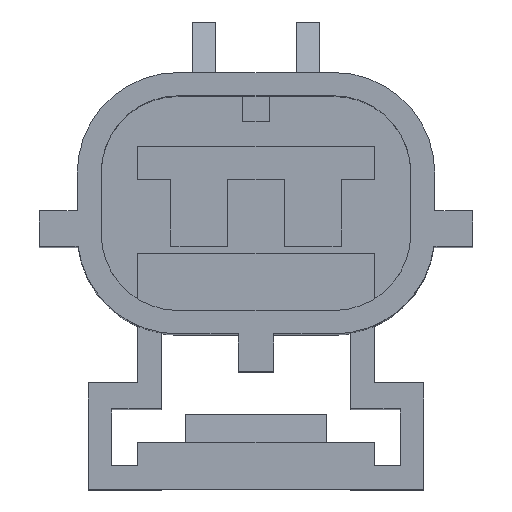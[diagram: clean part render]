
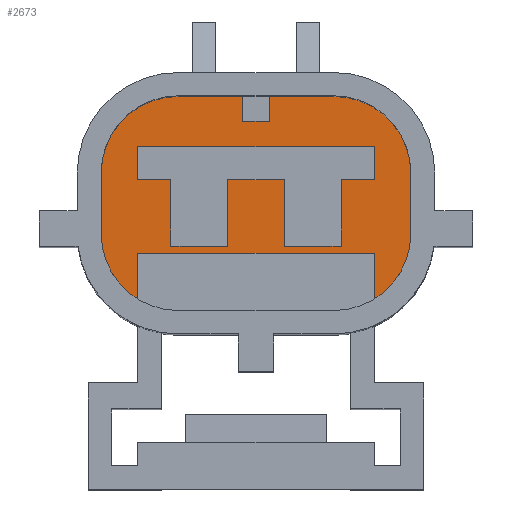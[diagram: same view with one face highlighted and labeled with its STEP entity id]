
A CAD part, top view. The second image highlights one B-rep face of the part: STEP entity #2673.
In plain terms, the highlighted planar face has unit normal (0, 0, 1).
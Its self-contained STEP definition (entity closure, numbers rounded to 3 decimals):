
#874=DIRECTION('',(0.,-1.,0.));
#875=VECTOR('',#874,1.4);
#876=CARTESIAN_POINT('',(-5.,2.412,0.));
#877=LINE('',#876,#875);
#878=DIRECTION('',(1.,0.,0.));
#879=VECTOR('',#878,1.4);
#880=CARTESIAN_POINT('',(-5.,1.012,0.));
#881=LINE('',#880,#879);
#882=DIRECTION('',(0.,-1.,0.));
#883=VECTOR('',#882,2.8);
#884=CARTESIAN_POINT('',(-3.6,1.012,0.));
#885=LINE('',#884,#883);
#886=DIRECTION('',(1.,0.,0.));
#887=VECTOR('',#886,2.4);
#888=CARTESIAN_POINT('',(-3.6,-1.788,0.));
#889=LINE('',#888,#887);
#890=DIRECTION('',(0.,1.,0.));
#891=VECTOR('',#890,2.8);
#892=CARTESIAN_POINT('',(-1.2,-1.788,0.));
#893=LINE('',#892,#891);
#894=DIRECTION('',(1.,0.,0.));
#895=VECTOR('',#894,2.4);
#896=CARTESIAN_POINT('',(-1.2,1.012,0.));
#897=LINE('',#896,#895);
#898=DIRECTION('',(0.,-1.,0.));
#899=VECTOR('',#898,2.8);
#900=CARTESIAN_POINT('',(1.2,1.012,0.));
#901=LINE('',#900,#899);
#902=DIRECTION('',(1.,0.,0.));
#903=VECTOR('',#902,2.4);
#904=CARTESIAN_POINT('',(1.2,-1.788,0.));
#905=LINE('',#904,#903);
#906=DIRECTION('',(0.,1.,0.));
#907=VECTOR('',#906,2.8);
#908=CARTESIAN_POINT('',(3.6,-1.788,0.));
#909=LINE('',#908,#907);
#910=DIRECTION('',(1.,0.,0.));
#911=VECTOR('',#910,1.4);
#912=CARTESIAN_POINT('',(3.6,1.012,0.));
#913=LINE('',#912,#911);
#914=DIRECTION('',(0.,1.,0.));
#915=VECTOR('',#914,1.4);
#916=CARTESIAN_POINT('',(5.,1.012,0.));
#917=LINE('',#916,#915);
#918=DIRECTION('',(-1.,0.,0.));
#919=VECTOR('',#918,10.);
#920=CARTESIAN_POINT('',(5.,2.412,0.));
#921=LINE('',#920,#919);
#922=DIRECTION('',(0.,-1.,0.));
#923=VECTOR('',#922,1.05);
#924=CARTESIAN_POINT('',(-0.55,4.538,0.));
#925=LINE('',#924,#923);
#926=DIRECTION('',(1.,0.,0.));
#927=VECTOR('',#926,1.1);
#928=CARTESIAN_POINT('',(-0.55,3.488,0.));
#929=LINE('',#928,#927);
#930=DIRECTION('',(0.,-1.,0.));
#931=VECTOR('',#930,1.05);
#932=CARTESIAN_POINT('',(0.55,4.538,0.));
#933=LINE('',#932,#931);
#934=DIRECTION('',(-1.,0.,0.));
#935=VECTOR('',#934,2.75);
#936=CARTESIAN_POINT('',(3.3,4.538,0.));
#937=LINE('',#936,#935);
#938=CARTESIAN_POINT('',(3.3,1.288,0.));
#939=DIRECTION('',(0.,0.,1.));
#940=DIRECTION('',(1.,0.,0.));
#941=AXIS2_PLACEMENT_3D('',#938,#939,#940);
#943=DIRECTION('',(0.,1.,0.));
#944=VECTOR('',#943,2.575);
#945=CARTESIAN_POINT('',(6.55,-1.288,0.));
#946=LINE('',#945,#944);
#947=CARTESIAN_POINT('',(3.3,-1.288,0.));
#948=DIRECTION('',(0.,0.,1.));
#949=DIRECTION('',(0.523,-0.852,0.));
#950=AXIS2_PLACEMENT_3D('',#947,#948,#949);
#952=DIRECTION('',(0.,1.,0.));
#953=VECTOR('',#952,1.97);
#954=CARTESIAN_POINT('',(5.,-4.057,0.));
#955=LINE('',#954,#953);
#956=DIRECTION('',(-1.,0.,0.));
#957=VECTOR('',#956,10.);
#958=CARTESIAN_POINT('',(5.,-2.088,0.));
#959=LINE('',#958,#957);
#960=DIRECTION('',(0.,-1.,0.));
#961=VECTOR('',#960,1.97);
#962=CARTESIAN_POINT('',(-5.,-2.088,0.));
#963=LINE('',#962,#961);
#964=CARTESIAN_POINT('',(-3.3,-1.288,0.));
#965=DIRECTION('',(0.,0.,1.));
#966=DIRECTION('',(-1.,0.,0.));
#967=AXIS2_PLACEMENT_3D('',#964,#965,#966);
#969=DIRECTION('',(0.,-1.,0.));
#970=VECTOR('',#969,2.575);
#971=CARTESIAN_POINT('',(-6.55,1.288,0.));
#972=LINE('',#971,#970);
#973=CARTESIAN_POINT('',(-3.3,1.288,0.));
#974=DIRECTION('',(0.,0.,1.));
#975=DIRECTION('',(0.,1.,0.));
#976=AXIS2_PLACEMENT_3D('',#973,#974,#975);
#978=DIRECTION('',(-1.,0.,0.));
#979=VECTOR('',#978,2.75);
#980=CARTESIAN_POINT('',(-0.55,4.538,0.));
#981=LINE('',#980,#979);
#1328=CARTESIAN_POINT('',(-3.3,4.538,0.));
#1329=CARTESIAN_POINT('',(-6.55,1.288,0.));
#1330=VERTEX_POINT('',#1328);
#1331=VERTEX_POINT('',#1329);
#1332=CARTESIAN_POINT('',(-6.55,-1.288,0.));
#1333=VERTEX_POINT('',#1332);
#1334=CARTESIAN_POINT('',(6.55,-1.288,0.));
#1335=CARTESIAN_POINT('',(6.55,1.288,0.));
#1336=VERTEX_POINT('',#1334);
#1337=VERTEX_POINT('',#1335);
#1338=CARTESIAN_POINT('',(3.3,4.538,0.));
#1339=VERTEX_POINT('',#1338);
#1492=CARTESIAN_POINT('',(-5.,2.412,0.));
#1493=CARTESIAN_POINT('',(-5.,1.012,0.));
#1494=VERTEX_POINT('',#1492);
#1495=VERTEX_POINT('',#1493);
#1496=CARTESIAN_POINT('',(-3.6,1.012,0.));
#1497=VERTEX_POINT('',#1496);
#1498=CARTESIAN_POINT('',(-3.6,-1.788,0.));
#1499=VERTEX_POINT('',#1498);
#1500=CARTESIAN_POINT('',(-1.2,-1.788,0.));
#1501=VERTEX_POINT('',#1500);
#1502=CARTESIAN_POINT('',(-1.2,1.012,0.));
#1503=VERTEX_POINT('',#1502);
#1504=CARTESIAN_POINT('',(1.2,1.012,0.));
#1505=VERTEX_POINT('',#1504);
#1506=CARTESIAN_POINT('',(1.2,-1.788,0.));
#1507=VERTEX_POINT('',#1506);
#1508=CARTESIAN_POINT('',(3.6,-1.788,0.));
#1509=VERTEX_POINT('',#1508);
#1510=CARTESIAN_POINT('',(3.6,1.012,0.));
#1511=VERTEX_POINT('',#1510);
#1512=CARTESIAN_POINT('',(5.,1.012,0.));
#1513=VERTEX_POINT('',#1512);
#1514=CARTESIAN_POINT('',(5.,2.412,0.));
#1515=VERTEX_POINT('',#1514);
#1516=CARTESIAN_POINT('',(5.,-4.057,0.));
#1517=CARTESIAN_POINT('',(5.,-2.088,0.));
#1518=VERTEX_POINT('',#1516);
#1519=VERTEX_POINT('',#1517);
#1520=CARTESIAN_POINT('',(-5.,-2.088,0.));
#1521=VERTEX_POINT('',#1520);
#1522=CARTESIAN_POINT('',(-5.,-4.057,0.));
#1523=VERTEX_POINT('',#1522);
#1560=CARTESIAN_POINT('',(-0.55,4.538,0.));
#1561=CARTESIAN_POINT('',(-0.55,3.488,0.));
#1562=VERTEX_POINT('',#1560);
#1563=VERTEX_POINT('',#1561);
#1564=CARTESIAN_POINT('',(0.55,3.488,0.));
#1565=VERTEX_POINT('',#1564);
#1566=CARTESIAN_POINT('',(0.55,4.538,0.));
#1567=VERTEX_POINT('',#1566);
#2615=CARTESIAN_POINT('',(0.,0.,0.));
#2616=DIRECTION('',(0.,0.,1.));
#2617=DIRECTION('',(1.,0.,0.));
#2618=AXIS2_PLACEMENT_3D('',#2615,#2616,#2617);
#2619=PLANE('',#2618);
#2621=ORIENTED_EDGE('',*,*,#2620,.T.);
#2623=ORIENTED_EDGE('',*,*,#2622,.T.);
#2624=ORIENTED_EDGE('',*,*,#2606,.F.);
#2625=ORIENTED_EDGE('',*,*,#2579,.F.);
#2627=ORIENTED_EDGE('',*,*,#2626,.F.);
#2629=ORIENTED_EDGE('',*,*,#2628,.F.);
#2631=ORIENTED_EDGE('',*,*,#2630,.F.);
#2633=ORIENTED_EDGE('',*,*,#2632,.T.);
#2635=ORIENTED_EDGE('',*,*,#2634,.T.);
#2637=ORIENTED_EDGE('',*,*,#2636,.T.);
#2639=ORIENTED_EDGE('',*,*,#2638,.F.);
#2641=ORIENTED_EDGE('',*,*,#2640,.F.);
#2643=ORIENTED_EDGE('',*,*,#2642,.F.);
#2644=ORIENTED_EDGE('',*,*,#2572,.F.);
#2645=EDGE_LOOP('',(#2621,#2623,#2624,#2625,#2627,#2629,#2631,#2633,#2635,#2637,
#2639,#2641,#2643,#2644));
#2646=FACE_OUTER_BOUND('',#2645,.F.);
#2648=ORIENTED_EDGE('',*,*,#2647,.T.);
#2650=ORIENTED_EDGE('',*,*,#2649,.T.);
#2652=ORIENTED_EDGE('',*,*,#2651,.T.);
#2654=ORIENTED_EDGE('',*,*,#2653,.T.);
#2656=ORIENTED_EDGE('',*,*,#2655,.T.);
#2658=ORIENTED_EDGE('',*,*,#2657,.T.);
#2660=ORIENTED_EDGE('',*,*,#2659,.T.);
#2662=ORIENTED_EDGE('',*,*,#2661,.T.);
#2664=ORIENTED_EDGE('',*,*,#2663,.T.);
#2666=ORIENTED_EDGE('',*,*,#2665,.T.);
#2668=ORIENTED_EDGE('',*,*,#2667,.T.);
#2670=ORIENTED_EDGE('',*,*,#2669,.T.);
#2671=EDGE_LOOP('',(#2648,#2650,#2652,#2654,#2656,#2658,#2660,#2662,#2664,#2666,
#2668,#2670));
#2672=FACE_BOUND('',#2671,.F.);
#2673=ADVANCED_FACE('',(#2646,#2672),#2619,.T.);
#942=CIRCLE('',#941,3.25);
#951=CIRCLE('',#950,3.25);
#968=CIRCLE('',#967,3.25);
#977=CIRCLE('',#976,3.25);
#2572=EDGE_CURVE('',#1562,#1330,#981,.T.);
#2579=EDGE_CURVE('',#1339,#1567,#937,.T.);
#2606=EDGE_CURVE('',#1567,#1565,#933,.T.);
#2620=EDGE_CURVE('',#1562,#1563,#925,.T.);
#2622=EDGE_CURVE('',#1563,#1565,#929,.T.);
#2626=EDGE_CURVE('',#1337,#1339,#942,.T.);
#2628=EDGE_CURVE('',#1336,#1337,#946,.T.);
#2630=EDGE_CURVE('',#1518,#1336,#951,.T.);
#2632=EDGE_CURVE('',#1518,#1519,#955,.T.);
#2634=EDGE_CURVE('',#1519,#1521,#959,.T.);
#2636=EDGE_CURVE('',#1521,#1523,#963,.T.);
#2638=EDGE_CURVE('',#1333,#1523,#968,.T.);
#2640=EDGE_CURVE('',#1331,#1333,#972,.T.);
#2642=EDGE_CURVE('',#1330,#1331,#977,.T.);
#2647=EDGE_CURVE('',#1494,#1495,#877,.T.);
#2649=EDGE_CURVE('',#1495,#1497,#881,.T.);
#2651=EDGE_CURVE('',#1497,#1499,#885,.T.);
#2653=EDGE_CURVE('',#1499,#1501,#889,.T.);
#2655=EDGE_CURVE('',#1501,#1503,#893,.T.);
#2657=EDGE_CURVE('',#1503,#1505,#897,.T.);
#2659=EDGE_CURVE('',#1505,#1507,#901,.T.);
#2661=EDGE_CURVE('',#1507,#1509,#905,.T.);
#2663=EDGE_CURVE('',#1509,#1511,#909,.T.);
#2665=EDGE_CURVE('',#1511,#1513,#913,.T.);
#2667=EDGE_CURVE('',#1513,#1515,#917,.T.);
#2669=EDGE_CURVE('',#1515,#1494,#921,.T.);
